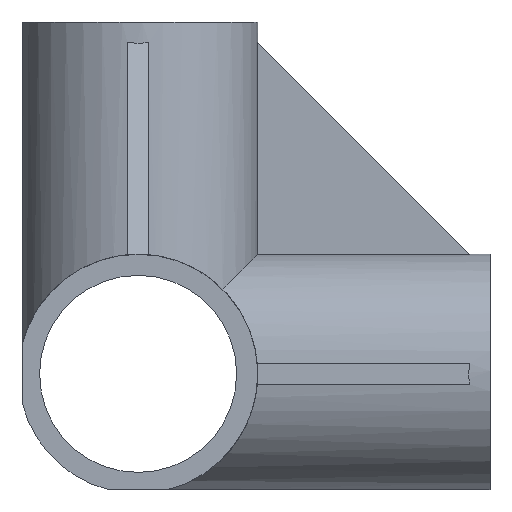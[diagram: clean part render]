
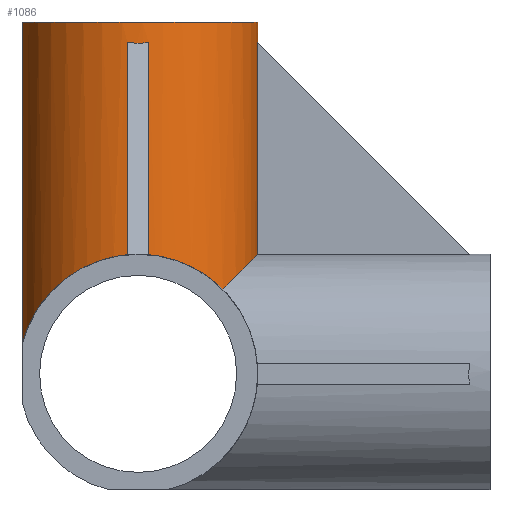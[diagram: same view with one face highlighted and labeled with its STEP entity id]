
A CAD part, front view. The second image highlights one B-rep face of the part: STEP entity #1086.
In plain terms, the highlighted cylindrical face has radius 17 mm (diameter 34 mm), a partial arc.
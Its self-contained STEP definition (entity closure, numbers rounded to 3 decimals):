
#18 = CARTESIAN_POINT ( 'NONE',  ( -8.984, -16.271, 16.271 ) ) ;
#23 = CARTESIAN_POINT ( 'NONE',  ( 16.934, -1.5, 47.066 ) ) ;
#24 = CARTESIAN_POINT ( 'NONE',  ( -1.5, -16.934, 47.066 ) ) ;
#42 = DIRECTION ( 'NONE',  ( 0., 0., -1. ) ) ;
#56 = VECTOR ( 'NONE', #278, 1000. ) ;
#63 = VERTEX_POINT ( 'NONE', #614 ) ;
#69 = EDGE_CURVE ( 'NONE', #751, #63, #764, .T. ) ;
#72 = DIRECTION ( 'NONE',  ( 0., 0., 1. ) ) ;
#89 = DIRECTION ( 'NONE',  ( 0., 0., 1. ) ) ;
#102 = EDGE_CURVE ( 'NONE', #595, #275, #640, .T. ) ;
#114 = CARTESIAN_POINT ( 'NONE',  ( 16.978, -1.001, 47.022 ) ) ;
#118 = CARTESIAN_POINT ( 'NONE',  ( -1.5, -16.934, 16.934 ) ) ;
#121 = CARTESIAN_POINT ( 'NONE',  ( 1.5, -16.934, -17.001 ) ) ;
#136 = EDGE_CURVE ( 'NONE', #850, #748, #400, .T. ) ;
#185 = CARTESIAN_POINT ( 'NONE',  ( 12.021, -12.021, 12.021 ) ) ;
#194 = CARTESIAN_POINT ( 'NONE',  ( -1.5, -16.934, 16.934 ) ) ;
#210 = CARTESIAN_POINT ( 'NONE',  ( 9.17, -14.872, 14.872 ) ) ;
#240 = CARTESIAN_POINT ( 'NONE',  ( -1.5, -16.934, -17.001 ) ) ;
#242 = CARTESIAN_POINT ( 'NONE',  ( -16.5, -4.093, 50. ) ) ;
#275 = VERTEX_POINT ( 'NONE', #284 ) ;
#278 = DIRECTION ( 'NONE',  ( 0., 0., 1. ) ) ;
#281 = ORIENTED_EDGE ( 'NONE', *, *, #755, .T. ) ;
#282 = EDGE_CURVE ( 'NONE', #648, #433, #877, .T. ) ;
#284 = CARTESIAN_POINT ( 'NONE',  ( -16.5, -4.093, 4.093 ) ) ;
#288 = CARTESIAN_POINT ( 'NONE',  ( 17., -0.501, 47. ) ) ;
#317 = EDGE_CURVE ( 'NONE', #564, #850, #382, .T. ) ;
#323 = EDGE_CURVE ( 'NONE', #63, #1100, #428, .T. ) ;
#373 = ORIENTED_EDGE ( 'NONE', *, *, #921, .F. ) ;
#374 =( BOUNDED_CURVE ( )  B_SPLINE_CURVE ( 3, ( #547, #210, #652, #1094 ),
 .UNSPECIFIED., .F., .T. ) 
 B_SPLINE_CURVE_WITH_KNOTS ( ( 4, 4 ),
 ( 5.498, 6.195 ),
 .UNSPECIFIED. ) 
 CURVE ( )  GEOMETRIC_REPRESENTATION_ITEM ( )  RATIONAL_B_SPLINE_CURVE ( ( 1., 0.96, 0.96, 1. ) ) 
 REPRESENTATION_ITEM ( '' )  );
#376 = CYLINDRICAL_SURFACE ( 'NONE', #778, 17. ) ;
#380 = ORIENTED_EDGE ( 'NONE', *, *, #136, .T. ) ;
#382 =( BOUNDED_CURVE ( )  B_SPLINE_CURVE ( 3, ( #598, #857, #1021, #671 ),
 .UNSPECIFIED., .F., .F. ) 
 B_SPLINE_CURVE_WITH_KNOTS ( ( 4, 4 ),
 ( 3.053, 3.23 ),
 .UNSPECIFIED. ) 
 CURVE ( )  GEOMETRIC_REPRESENTATION_ITEM ( )  RATIONAL_B_SPLINE_CURVE ( ( 1., 0.997, 0.997, 1. ) ) 
 REPRESENTATION_ITEM ( '' )  );
#389 = CARTESIAN_POINT ( 'NONE',  ( -14.691, -11.385, 11.385 ) ) ;
#400 = LINE ( 'NONE', #121, #452 ) ;
#414 = VERTEX_POINT ( 'NONE', #242 ) ;
#428 = LINE ( 'NONE', #862, #453 ) ;
#433 = VERTEX_POINT ( 'NONE', #1035 ) ;
#452 = VECTOR ( 'NONE', #42, 1000. ) ;
#453 = VECTOR ( 'NONE', #939, 1000. ) ;
#494 = DIRECTION ( 'NONE',  ( 0., 0., -1. ) ) ;
#543 = CARTESIAN_POINT ( 'NONE',  ( 16.578, -5.516, 16.578 ) ) ;
#547 = CARTESIAN_POINT ( 'NONE',  ( 12.021, -12.021, 12.021 ) ) ;
#549 = DIRECTION ( 'NONE',  ( 1., 0., 0. ) ) ;
#553 = DIRECTION ( 'NONE',  ( 0., 0., 1. ) ) ;
#555 = EDGE_LOOP ( 'NONE', ( #915, #695, #373, #1126, #949, #991, #599, #380, #1056, #858, #281 ) ) ;
#564 = VERTEX_POINT ( 'NONE', #24 ) ;
#591 = LINE ( 'NONE', #656, #612 ) ;
#595 = VERTEX_POINT ( 'NONE', #118 ) ;
#598 = CARTESIAN_POINT ( 'NONE',  ( -1.5, -16.934, 47.066 ) ) ;
#599 = ORIENTED_EDGE ( 'NONE', *, *, #317, .T. ) ;
#600 = EDGE_CURVE ( 'NONE', #648, #748, #374, .T. ) ;
#612 = VECTOR ( 'NONE', #72, 1000. ) ;
#613 = CARTESIAN_POINT ( 'NONE',  ( 1.5, -16.934, 47.066 ) ) ;
#614 = CARTESIAN_POINT ( 'NONE',  ( 17., 0., 47. ) ) ;
#624 = CARTESIAN_POINT ( 'NONE',  ( -16.5, -4.093, 4.093 ) ) ;
#638 = CARTESIAN_POINT ( 'NONE',  ( 0., 0., -17.001 ) ) ;
#640 =( BOUNDED_CURVE ( )  B_SPLINE_CURVE ( 3, ( #194, #18, #389, #624 ),
 .UNSPECIFIED., .F., .F. ) 
 B_SPLINE_CURVE_WITH_KNOTS ( ( 4, 4 ),
 ( 0.088, 1.328 ),
 .UNSPECIFIED. ) 
 CURVE ( )  GEOMETRIC_REPRESENTATION_ITEM ( )  RATIONAL_B_SPLINE_CURVE ( ( 1., 0.876, 0.876, 1. ) ) 
 REPRESENTATION_ITEM ( '' )  );
#648 = VERTEX_POINT ( 'NONE', #823 ) ;
#652 = CARTESIAN_POINT ( 'NONE',  ( 5.516, -16.578, 16.578 ) ) ;
#656 = CARTESIAN_POINT ( 'NONE',  ( 16.934, -1.5, -17.001 ) ) ;
#668 = CIRCLE ( 'NONE', #854, 17. ) ;
#671 = CARTESIAN_POINT ( 'NONE',  ( 1.5, -16.934, 47.066 ) ) ;
#695 = ORIENTED_EDGE ( 'NONE', *, *, #323, .T. ) ;
#702 = CARTESIAN_POINT ( 'NONE',  ( 17., 0., 47. ) ) ;
#712 = CARTESIAN_POINT ( 'NONE',  ( 17., 0., 50. ) ) ;
#728 = EDGE_CURVE ( 'NONE', #564, #595, #855, .T. ) ;
#748 = VERTEX_POINT ( 'NONE', #1027 ) ;
#751 = VERTEX_POINT ( 'NONE', #1011 ) ;
#755 = EDGE_CURVE ( 'NONE', #433, #751, #591, .T. ) ;
#764 =( BOUNDED_CURVE ( )  B_SPLINE_CURVE ( 3, ( #23, #114, #288, #702 ),
 .UNSPECIFIED., .F., .F. ) 
 B_SPLINE_CURVE_WITH_KNOTS ( ( 4, 4 ),
 ( 3.053, 3.142 ),
 .UNSPECIFIED. ) 
 CURVE ( )  GEOMETRIC_REPRESENTATION_ITEM ( )  RATIONAL_B_SPLINE_CURVE ( ( 1., 0.999, 0.999, 1. ) ) 
 REPRESENTATION_ITEM ( '' )  );
#778 = AXIS2_PLACEMENT_3D ( 'NONE', #638, #553, #549 ) ;
#800 = FACE_OUTER_BOUND ( 'NONE', #555, .T. ) ;
#823 = CARTESIAN_POINT ( 'NONE',  ( 12.021, -12.021, 12.021 ) ) ;
#850 = VERTEX_POINT ( 'NONE', #613 ) ;
#854 = AXIS2_PLACEMENT_3D ( 'NONE', #870, #89, #1053 ) ;
#855 = LINE ( 'NONE', #240, #1067 ) ;
#857 = CARTESIAN_POINT ( 'NONE',  ( -0.501, -17.022, 46.978 ) ) ;
#858 = ORIENTED_EDGE ( 'NONE', *, *, #282, .T. ) ;
#862 = CARTESIAN_POINT ( 'NONE',  ( 17., 0., -17.001 ) ) ;
#870 = CARTESIAN_POINT ( 'NONE',  ( 0., 0., 50. ) ) ;
#877 =( BOUNDED_CURVE ( )  B_SPLINE_CURVE ( 3, ( #185, #977, #543, #894 ),
 .UNSPECIFIED., .F., .T. ) 
 B_SPLINE_CURVE_WITH_KNOTS ( ( 4, 4 ),
 ( 5.498, 6.195 ),
 .UNSPECIFIED. ) 
 CURVE ( )  GEOMETRIC_REPRESENTATION_ITEM ( )  RATIONAL_B_SPLINE_CURVE ( ( 1., 0.96, 0.96, 1. ) ) 
 REPRESENTATION_ITEM ( '' )  );
#894 = CARTESIAN_POINT ( 'NONE',  ( 16.934, -1.5, 16.934 ) ) ;
#906 = LINE ( 'NONE', #1058, #56 ) ;
#915 = ORIENTED_EDGE ( 'NONE', *, *, #69, .T. ) ;
#921 = EDGE_CURVE ( 'NONE', #414, #1100, #668, .T. ) ;
#939 = DIRECTION ( 'NONE',  ( 0., 0., 1. ) ) ;
#949 = ORIENTED_EDGE ( 'NONE', *, *, #102, .F. ) ;
#976 = EDGE_CURVE ( 'NONE', #275, #414, #906, .T. ) ;
#977 = CARTESIAN_POINT ( 'NONE',  ( 14.872, -9.17, 14.872 ) ) ;
#991 = ORIENTED_EDGE ( 'NONE', *, *, #728, .F. ) ;
#1011 = CARTESIAN_POINT ( 'NONE',  ( 16.934, -1.5, 47.066 ) ) ;
#1021 = CARTESIAN_POINT ( 'NONE',  ( 0.501, -17.022, 46.978 ) ) ;
#1027 = CARTESIAN_POINT ( 'NONE',  ( 1.5, -16.934, 16.934 ) ) ;
#1035 = CARTESIAN_POINT ( 'NONE',  ( 16.934, -1.5, 16.934 ) ) ;
#1053 = DIRECTION ( 'NONE',  ( 1., 0., 0. ) ) ;
#1056 = ORIENTED_EDGE ( 'NONE', *, *, #600, .F. ) ;
#1058 = CARTESIAN_POINT ( 'NONE',  ( -16.5, -4.093, -17.001 ) ) ;
#1067 = VECTOR ( 'NONE', #494, 1000. ) ;
#1086 = ADVANCED_FACE ( 'NONE', ( #800 ), #376, .T. ) ;
#1094 = CARTESIAN_POINT ( 'NONE',  ( 1.5, -16.934, 16.934 ) ) ;
#1100 = VERTEX_POINT ( 'NONE', #712 ) ;
#1126 = ORIENTED_EDGE ( 'NONE', *, *, #976, .F. ) ;
